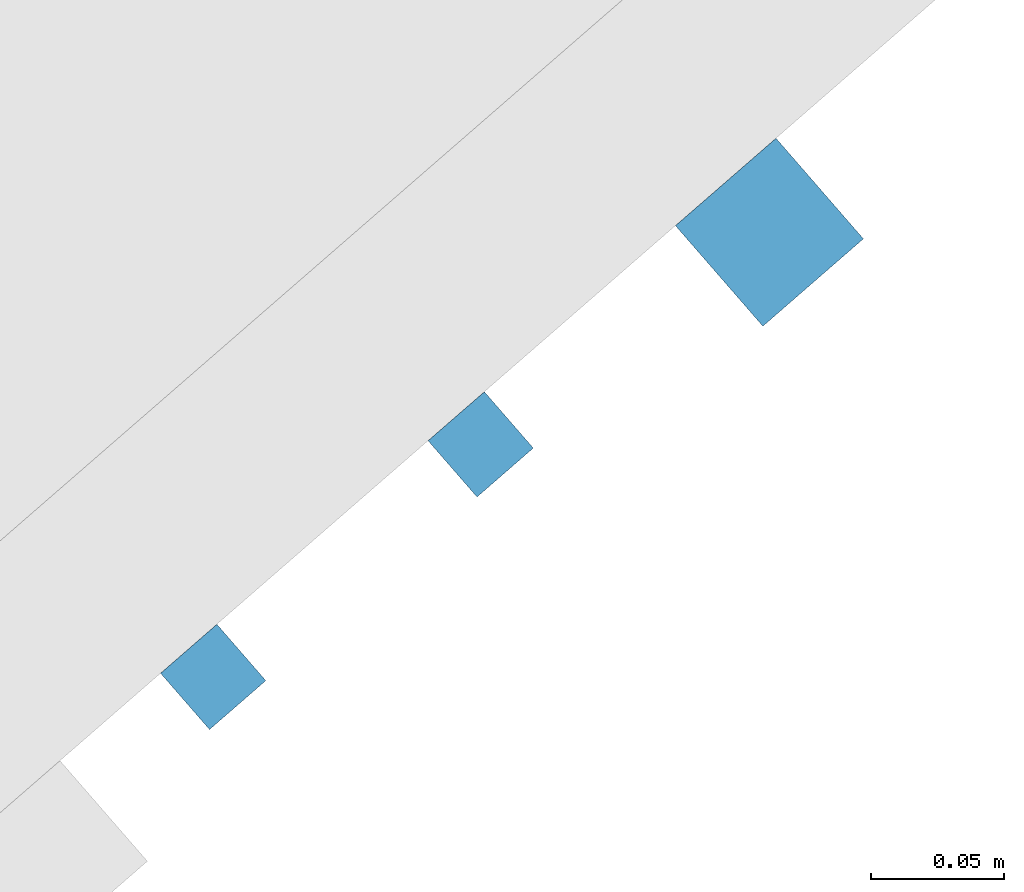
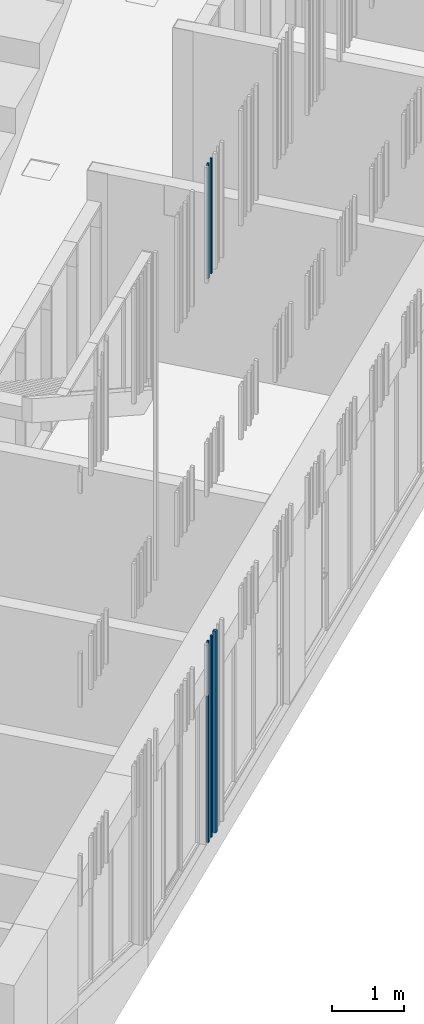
# One storey, part 59 of 124: 5 walls.
"""IFC2X3 building model written with IfcOpenShell, lengths in millimetres."""

from ifc_helpers import new_model, entity, si_unit, converted_unit, derived_unit, money_unit, direction, frame, origin_with_axes, place, context, subcontext, project, spatial, faceted_brep, material, type_object, element, save


model = new_model("IFC2X3")

# Units and contexts
model_context = context("Model", 3, precision=1e-05, world=origin_with_axes(), true_north=direction((0.0, 1.0)))
body_context = subcontext(model_context, "Body", "Model", "MODEL_VIEW")
ifc_project = project(units=[si_unit("LENGTHUNIT", "METRE", prefix="MILLI"), si_unit("AREAUNIT", "SQUARE_METRE"), si_unit("VOLUMEUNIT", "CUBIC_METRE"), converted_unit("PLANEANGLEUNIT", "DEGREE", entity("IfcPlaneAngleMeasure", 0.0174532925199), si_unit("PLANEANGLEUNIT", "RADIAN"), dimensions=[0, 0, 0, 0, 0, 0, 0]), si_unit("SOLIDANGLEUNIT", "STERADIAN"), money_unit("EUR"), converted_unit("TIMEUNIT", "Year", entity("IfcTimeMeasure", 31556926.0), si_unit("TIMEUNIT", "SECOND"), dimensions=[0, 0, 1, 0, 0, 0, 0]), si_unit("MASSUNIT", "GRAM", prefix="KILO"), si_unit("THERMODYNAMICTEMPERATUREUNIT", "DEGREE_CELSIUS"), si_unit("LUMINOUSINTENSITYUNIT", "LUMEN"), si_unit("ENERGYUNIT", "JOULE", prefix="MEGA"), derived_unit("THERMALCONDUCTANCEUNIT", [(si_unit("POWERUNIT", "WATT"), 1), (si_unit("LENGTHUNIT", "METRE"), -1), (si_unit("THERMODYNAMICTEMPERATUREUNIT", "KELVIN"), -1)]), derived_unit("SPECIFICHEATCAPACITYUNIT", [(si_unit("ENERGYUNIT", "JOULE"), 1), (si_unit("MASSUNIT", "GRAM", prefix="KILO"), -1), (si_unit("THERMODYNAMICTEMPERATUREUNIT", "KELVIN"), -1)]), derived_unit("MASSDENSITYUNIT", [(si_unit("MASSUNIT", "GRAM", prefix="KILO"), 1), (si_unit("VOLUMEUNIT", "CUBIC_METRE"), -1)])], contexts=[model_context])

# Site, building, storey
site_placement = place(None, origin_with_axes())
site = spatial("IfcSite", under=ifc_project, at=site_placement, Name="Site", CompositionType="ELEMENT")
building_placement = place(site_placement, origin_with_axes())
building = spatial("IfcBuilding", under=site, at=building_placement, Name="Building", CompositionType="ELEMENT")
storey_placement = place(building_placement, frame((0.0, 0.0, -1615.0), z_axis=(0.0, 0.0, 1.0), x_axis=(1.0, 0.0, 0.0)))
storey = spatial("IfcBuildingStorey", under=building, at=storey_placement, Name="0  korrus", CompositionType="ELEMENT", Elevation=-1615.0)

# Walls
ifc_material = material(Name="Site specified")
wall_type = type_object("IfcWallType", Name="Puitfassaadi ribistik", PredefinedType="NOTDEFINED")
for number, where, z_axis, x_axis, name in (
    (1, (155010.734803, 79393.9677805, 0.0), (0.0, 0.0, 1.0), (-0.754709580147, -0.656059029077, 0.0), "Site specified"),
    (2, (155111.111177, 79481.2236308, 0.0), (0.0, 0.0, 1.0), (-0.754709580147, -0.656059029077, 0.0), "Site specified"),
):
    element("IfcWall", number, at=place(storey_placement, frame(where, z_axis=z_axis, x_axis=x_axis)), inside=storey, type_object=wall_type, material=ifc_material, Name=name, context=body_context, shape_type="Brep", body=[
        faceted_brep([(14.0, 14.0, 3410.00001878), (14.0, 14.0, 0.0), (-14.0, 14.0, 0.0), (-14.0, 14.0, 3410.00001878), (14.0, -14.0, 3410.00001878), (14.0, -14.0, 0.0), (-14.0, -14.0, 0.0), (-14.0, -14.0, 3410.00001878)], [[[0, 1, 2, 3]], [[4, 5, 1, 0]], [[2, 1, 5, 6]], [[3, 2, 6, 7]], [[4, 0, 3, 7]], [[7, 6, 5, 4]]]),
    ])
wall_placement = place(storey_placement, frame((155219.460769, 79560.8353517, 0.0), z_axis=(0.0, 0.0, 1.0), x_axis=(-0.754709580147, -0.656059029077, 0.0)))
element("IfcWall", 3, at=wall_placement, inside=storey, type_object=wall_type, material=ifc_material, Name="Site specified", context=body_context, shape_type="Brep", body=[
    faceted_brep([(25.0, 25.0, 3410.00001878), (25.0, 25.0, 0.0), (-25.0, 25.0, 0.0), (-25.0, 25.0, 3410.00001878), (25.0, -25.0, 3410.00001878), (25.0, -25.0, 0.0), (-25.0, -25.0, 0.0), (-25.0, -25.0, 3410.00001878)], [[[0, 1, 2, 3]], [[4, 5, 1, 0]], [[2, 1, 5, 6]], [[3, 2, 6, 7]], [[4, 0, 3, 7]], [[7, 6, 5, 4]]]),
])
for number, where, z_axis, x_axis, name in (
    (4, (155010.734803, 79393.9677805, 9530.0), (0.0, 0.0, 1.0), (-0.754709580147, -0.656059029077, 0.0), "Site specified"),
    (5, (155111.111177, 79481.2236308, 9530.0), (0.0, 0.0, 1.0), (-0.754709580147, -0.656059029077, 0.0), "Site specified"),
):
    element("IfcWall", number, at=place(storey_placement, frame(where, z_axis=z_axis, x_axis=x_axis)), inside=storey, type_object=wall_type, material=ifc_material, Name=name, context=body_context, shape_type="Brep", body=[
        faceted_brep([(14.0, 14.0, 1950.0), (14.0, 14.0, 0.0), (-14.0, 14.0, 0.0), (-14.0, 14.0, 1950.0), (14.0, -14.0, 1950.0), (14.0, -14.0, 0.0), (-14.0, -14.0, 0.0), (-14.0, -14.0, 1950.0)], [[[0, 1, 2, 3]], [[4, 5, 1, 0]], [[2, 1, 5, 6]], [[3, 2, 6, 7]], [[4, 0, 3, 7]], [[7, 6, 5, 4]]]),
    ])

save(model, "model.ifc")
